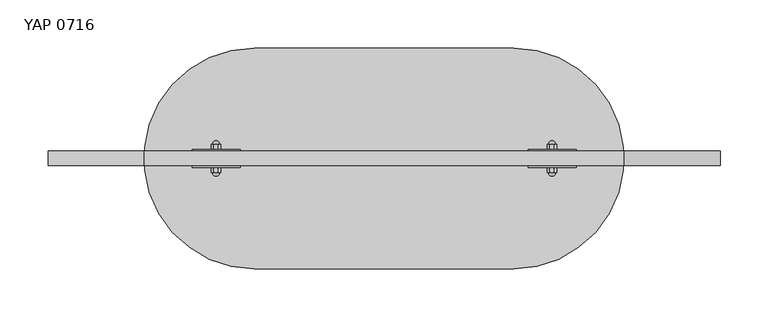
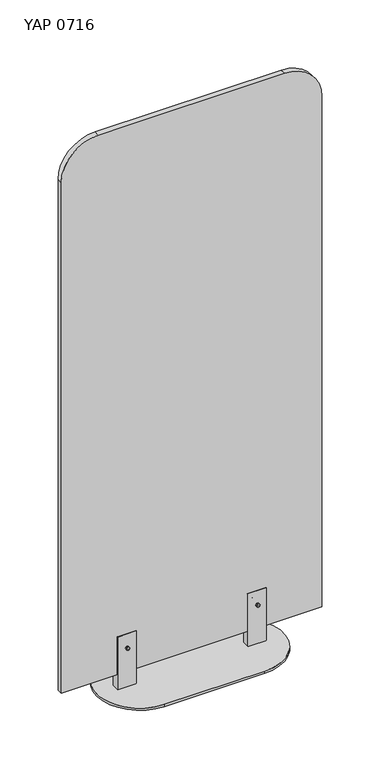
"""IFC4 building model written with IfcOpenShell, lengths in millimetres: furniture geometry, Mobiliário_Mobiliário de Escritório_LinhaYoung_Divisor Autoportante - YAP 0716_Marelli : YAP 0716."""

from ifc_helpers import new_model, si_unit, point, frame, frame_2d, origin, origin_with_axes, place, context, project, spatial, polyline, circle_curve, ellipse_curve, trimmed, segment, composite_curve, outline, extrude, source, transform, mapped, element, save
from ifc_brep_helpers import plane_surface, revolved_surface, advanced_brep


def yap_0716_2c363669(model_context):
    return source(origin(), model_context, "Body", "SolidModel", [
        extrude(outline(composite_curve([segment(polyline([(48.0, 700.0), (1498.0, 700.0)]), True, "CONTINUOUS"), segment(trimmed(circle_curve(frame_2d((1498.0, 600.0)), 100.0), [point((1498.0, 700.0))], [point((1598.0, 600.0))], False, "CARTESIAN"), True, "CONTINUOUS"), segment(polyline([(1598.0, 600.0), (1598.0, 100.0)]), True, "CONTINUOUS"), segment(trimmed(circle_curve(frame_2d((1498.0, 100.0)), 100.0), [point((1598.0, 100.0))], [point((1498.0, 0.0))], False, "CARTESIAN"), True, "CONTINUOUS"), segment(polyline([(1498.0, 0.0), (48.0, 0.0), (48.0, 700.0)]), True, "CONTINUOUS")], self_intersect=False)), frame((0.0, -15.0, 0.0), z_axis=(0.0, 1.0, 0.0), x_axis=(0.0, 0.0, 1.0)), (0.0, 0.0, 1.0), 15.0),
        extrude(outline(composite_curve([segment(polyline([(485.0, -122.5), (215.0, -122.5)]), True, "CONTINUOUS"), segment(trimmed(circle_curve(frame_2d((215.0, -7.5)), 115.0), [point((215.0, -122.5))], [point((215.0, 107.5))], False, "CARTESIAN"), True, "CONTINUOUS"), segment(polyline([(215.0, 107.5), (485.0, 107.5)]), True, "CONTINUOUS"), segment(trimmed(circle_curve(frame_2d((485.0, -7.5)), 115.0), [point((485.0, 107.5))], [point((485.0, -122.5))], False, "CARTESIAN"), True, "CONTINUOUS")], self_intersect=False)), origin_with_axes(), (0.0, 0.0, 1.0), 6.0),
        extrude(outline(polyline([(-17.0, 156.0), (-15.0, 156.0), (-15.0, 48.0), (0.0, 48.0), (0.0, 156.0), (2.0, 156.0), (2.0, 6.0), (-17.0, 6.0), (-17.0, 156.0)])), frame((150.0, 0.0, 0.0), z_axis=(1.0, 0.0, 0.0), x_axis=(0.0, 1.0, 0.0)), (0.0, 0.0, 1.0), 50.0),
        extrude(outline(polyline([(-17.0, 156.0), (-15.0, 156.0), (-15.0, 48.0), (0.0, 48.0), (0.0, 156.0), (2.0, 156.0), (2.0, 6.0), (-17.0, 6.0), (-17.0, 156.0)])), frame((500.0, 0.0, 0.0), z_axis=(1.0, 0.0, 0.0), x_axis=(0.0, 1.0, 0.0)), (0.0, 0.0, 1.0), 50.0),
        extrude(outline(polyline([(117.669873, 520.0), (113.339746, 522.5), (113.339746, 527.5), (117.669873, 530.0), (122.0, 527.5), (122.0, 522.5), (117.669873, 520.0)])), frame((0.0, -22.0, 0.0), z_axis=(0.0, 1.0, 0.0), x_axis=(0.0, 0.0, 1.0)), (0.0, 0.0, 1.0), 5.0),
        extrude(outline(polyline([(117.669873, 180.0), (122.0, 177.5), (122.0, 172.5), (117.669873, 170.0), (113.339746, 172.5), (113.339746, 177.5), (117.669873, 180.0)])), frame((0.0, -22.0, 0.0), z_axis=(0.0, 1.0, 0.0), x_axis=(0.0, 0.0, 1.0)), (0.0, 0.0, 1.0), 5.0),
        extrude(outline(polyline([(117.669873, 520.0), (113.339746, 522.5), (113.339746, 527.5), (117.669873, 530.0), (122.0, 527.5), (122.0, 522.5), (117.669873, 520.0)])), frame((0.0, 2.0, 0.0), z_axis=(0.0, 1.0, 0.0), x_axis=(0.0, 0.0, 1.0)), (0.0, 0.0, 1.0), 5.0),
        extrude(outline(polyline([(117.669873, 180.0), (122.0, 177.5), (122.0, 172.5), (117.669873, 170.0), (113.339746, 172.5), (113.339746, 177.5), (117.669873, 180.0)])), frame((0.0, 2.0, 0.0), z_axis=(0.0, 1.0, 0.0), x_axis=(0.0, 0.0, 1.0)), (0.0, 0.0, 1.0), 5.0),
        advanced_brep(
        [(525.0, -22.0, 117.669873), (528.8989795, -22.0, 117.669873), (521.1010205, -22.0, 117.669873), (525.0, -25.8989795, 117.669873)],
        [
            (0, 1),
            (1, 2, circle_curve(frame((525.0, -22.0, 117.669873), z_axis=(0.0, 1.0, 0.0), x_axis=(1.0, 0.0, 0.0)), 3.8989795)),
            (2, 0),
            (2, 1, circle_curve(frame((525.0, -22.0, 117.669873), z_axis=(0.0, 1.0, 0.0), x_axis=(1.0, 0.0, 0.0)), 3.8989795)),
            (1, 3, circle_curve(frame((525.0, -22.0, 117.669873), z_axis=(0.0, 0.0, -1.0), x_axis=(1.0, 0.0, 0.0)), 3.8989795)),
            (3, 2, circle_curve(frame((525.0, -22.0, 117.669873), z_axis=(0.0, 0.0, -1.0), x_axis=(-1.0, 0.0, 0.0)), 3.8989795)),
        ],
        [
            plane_surface(frame((525.0, -22.0, 117.669873), z_axis=(0.0, 1.0, 0.0), x_axis=(1.0, 0.0, 0.0))),
            revolved_surface(trimmed(ellipse_curve(frame((525.0, -22.0, 117.669873), z_axis=(0.0, 0.0, 1.0), x_axis=(1.0, 0.0, 0.0)), 3.8989795, 3.8989795), [point((525.0, -25.8989795, 117.669873))], [point((528.8989795, -22.0, 117.669873))], True, "CARTESIAN"), (525.0, -22.0, 117.669873), (0.0, 1.0, 0.0)),
        ],
        [
            (0, [[1, 2, 3]]),
            (0, [[-3, 4, -1]]),
            (1, [[-2, 5, 6]]),
            (1, [[-4, -6, -5]]),
        ],
    ),
        advanced_brep(
        [(175.0, -22.0, 117.669873), (178.8989795, -22.0, 117.669873), (171.1010205, -22.0, 117.669873), (175.0, -25.8989795, 117.669873)],
        [
            (0, 1),
            (1, 2, circle_curve(frame((175.0, -22.0, 117.669873), z_axis=(0.0, 1.0, 0.0), x_axis=(1.0, 0.0, 0.0)), 3.8989795)),
            (2, 0),
            (2, 1, circle_curve(frame((175.0, -22.0, 117.669873), z_axis=(0.0, 1.0, 0.0), x_axis=(1.0, 0.0, 0.0)), 3.8989795)),
            (1, 3, circle_curve(frame((175.0, -22.0, 117.669873), z_axis=(0.0, 0.0, -1.0), x_axis=(1.0, 0.0, 0.0)), 3.8989795)),
            (3, 2, circle_curve(frame((175.0, -22.0, 117.669873), z_axis=(0.0, 0.0, -1.0), x_axis=(-1.0, 0.0, 0.0)), 3.8989795)),
        ],
        [
            plane_surface(frame((175.0, -22.0, 117.669873), z_axis=(0.0, 1.0, 0.0), x_axis=(1.0, 0.0, 0.0))),
            revolved_surface(trimmed(ellipse_curve(frame((175.0, -22.0, 117.669873), z_axis=(0.0, 0.0, 1.0), x_axis=(1.0, 0.0, 0.0)), 3.8989795, 3.8989795), [point((175.0, -25.8989795, 117.669873))], [point((178.8989795, -22.0, 117.669873))], True, "CARTESIAN"), (175.0, -22.0, 117.669873), (0.0, 1.0, 0.0)),
        ],
        [
            (0, [[1, 2, 3]]),
            (0, [[-3, 4, -1]]),
            (1, [[-2, 5, 6]]),
            (1, [[-4, -6, -5]]),
        ],
    ),
        advanced_brep(
        [(521.1010205, 7.0, 117.669873), (528.8989795, 7.0, 117.669873), (525.0, 7.0, 117.669873), (525.0, 10.8989795, 117.669873)],
        [
            (0, 1, circle_curve(frame((525.0, 7.0, 117.669873), z_axis=(0.0, -1.0, 0.0), x_axis=(1.0, 0.0, 0.0)), 3.8989795)),
            (1, 2),
            (2, 0),
            (1, 0, circle_curve(frame((525.0, 7.0, 117.669873), z_axis=(0.0, -1.0, 0.0), x_axis=(1.0, 0.0, 0.0)), 3.8989795)),
            (3, 1, circle_curve(frame((525.0, 7.0, 117.669873), z_axis=(0.0, 0.0, -1.0), x_axis=(1.0, 0.0, 0.0)), 3.8989795)),
            (0, 3, circle_curve(frame((525.0, 7.0, 117.669873), z_axis=(0.0, 0.0, -1.0), x_axis=(-1.0, 0.0, 0.0)), 3.8989795)),
        ],
        [
            plane_surface(frame((525.0, 7.0, 117.669873), z_axis=(0.0, -1.0, 0.0), x_axis=(1.0, 0.0, 0.0))),
            revolved_surface(trimmed(ellipse_curve(frame((525.0, 7.0, 117.669873), z_axis=(0.0, 0.0, 1.0), x_axis=(1.0, 0.0, 0.0)), 3.8989795, 3.8989795), [point((528.8989795, 7.0, 117.669873))], [point((525.0, 10.8989795, 117.669873))], True, "CARTESIAN"), (525.0, 7.0, 117.669873), (0.0, 1.0, 0.0)),
        ],
        [
            (0, [[1, 2, 3]]),
            (0, [[4, -3, -2]]),
            (1, [[5, -1, 6]]),
            (1, [[-6, -4, -5]]),
        ],
    ),
        advanced_brep(
        [(171.1010205, 7.0, 117.669873), (178.8989795, 7.0, 117.669873), (175.0, 7.0, 117.669873), (175.0, 10.8989795, 117.669873)],
        [
            (0, 1, circle_curve(frame((175.0, 7.0, 117.669873), z_axis=(0.0, -1.0, 0.0), x_axis=(1.0, 0.0, 0.0)), 3.8989795)),
            (1, 2),
            (2, 0),
            (1, 0, circle_curve(frame((175.0, 7.0, 117.669873), z_axis=(0.0, -1.0, 0.0), x_axis=(1.0, 0.0, 0.0)), 3.8989795)),
            (3, 1, circle_curve(frame((175.0, 7.0, 117.669873), z_axis=(0.0, 0.0, -1.0), x_axis=(1.0, 0.0, 0.0)), 3.8989795)),
            (0, 3, circle_curve(frame((175.0, 7.0, 117.669873), z_axis=(0.0, 0.0, -1.0), x_axis=(-1.0, 0.0, 0.0)), 3.8989795)),
        ],
        [
            plane_surface(frame((175.0, 7.0, 117.669873), z_axis=(0.0, -1.0, 0.0), x_axis=(1.0, 0.0, 0.0))),
            revolved_surface(trimmed(ellipse_curve(frame((175.0, 7.0, 117.669873), z_axis=(0.0, 0.0, 1.0), x_axis=(1.0, 0.0, 0.0)), 3.8989795, 3.8989795), [point((178.8989795, 7.0, 117.669873))], [point((175.0, 10.8989795, 117.669873))], True, "CARTESIAN"), (175.0, 7.0, 117.669873), (0.0, 1.0, 0.0)),
        ],
        [
            (0, [[1, 2, 3]]),
            (0, [[4, -3, -2]]),
            (1, [[5, -1, 6]]),
            (1, [[-6, -4, -5]]),
        ],
    ),
    ])


if __name__ == "__main__":
    model = new_model("IFC4")
    model_context = context("Model", 3, world=origin())
    ifc_project = project(units=[si_unit("LENGTHUNIT", "METRE", prefix="MILLI")], contexts=[model_context])
    site = spatial("IfcSite", under=ifc_project)
    building = spatial("IfcBuilding", under=site)
    placement = place(None, origin())
    yap_0716_shape = yap_0716_2c363669(model_context)
    element("IfcFurniture", 1, ObjectType="Mobiliário_Mobiliário de Escritório_LinhaYoung_Divisor Autoportante - YAP 0716_Marelli : YAP 0716", at=placement, inside=building, context=model_context, shape_type="MappedRepresentation", body=[
        mapped(yap_0716_shape, transform((0.0, 0.0, 0.0), x_axis=(1.0, 0.0, 0.0), y_axis=(0.0, 1.0, 0.0), z_axis=(0.0, 0.0, 1.0))),
    ])
    save(model, "model.ifc")
